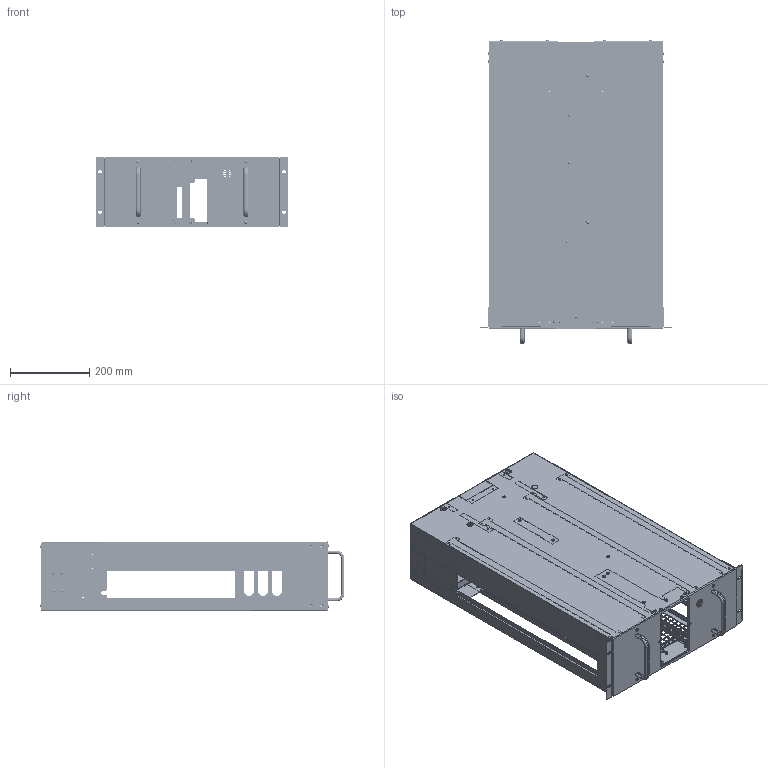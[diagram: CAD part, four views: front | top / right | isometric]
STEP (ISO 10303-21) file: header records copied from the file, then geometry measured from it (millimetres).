
FILE_DESCRIPTION(('CATIA V5 STEP Exchange'),'2;1');
FILE_NAME('C:\Users\sebas\cernbox\WINDOWS\Desktop\TRAINING CATIA\rack peruzzi turbine assembly\final assembly (LONG)\Annex A.stp','2026-05-05T12:02:05+00:00',('none'),('none'),'CATIA Version 5-6 Release 2017 SP6 HF16','CATIA V5 STEP AP203','none');
FILE_SCHEMA(('CONFIG_CONTROL_DESIGN'));
Products named in the file (2): Assem1; Assem5
Assembly tree (87 placements, depth 3):
  Assem1
    #57  x4
    #378  x2
    #1232  x2
    #1726
    #2941  x42
    #3947
    #10194  x2
    #11596
    #12542
    #13971
    #18547
    #22715
    #25729
    #28861
    #32488  x8
    #34412
    #36363
    #38686
    #41294  x2
    #42235  x2
    #44252  x2
    #58230
    #59688
    #64738  x2
    #65440  x2
    Assem5
      #65997
      #141880
Bounding box: 482.5 x 767.7 x 177 mm (x, y, z)
Volume: 1623929.1 mm3; surface area: 2681927.6 mm2
Topology: 86 solids, 86 shells, 6182 faces, 17482 edges, 11568 vertices
Faces by surface type: plane 4344, cylinder 1712, bspline 86, cone 32, torus 8
Entity records: 145075 total; most frequent: CARTESIAN_POINT 34355, ORIENTED_EDGE 26320, DIRECTION 15663, EDGE_CURVE 13160, VECTOR 10995, LINE 10995, VERTEX_POINT 8738, EDGE_LOOP 6482
